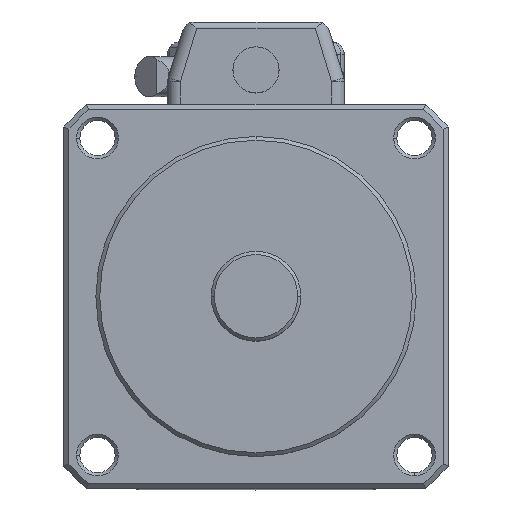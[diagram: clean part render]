
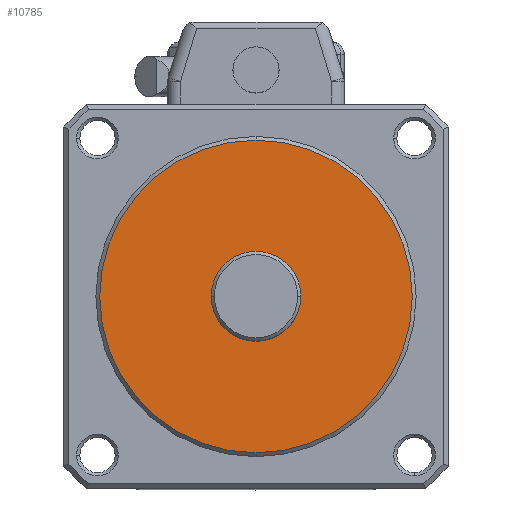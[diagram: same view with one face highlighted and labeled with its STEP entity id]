
A CAD part, top view. The second image highlights one B-rep face of the part: STEP entity #10785.
In plain terms, the highlighted planar face has unit normal (0, 0, 1).
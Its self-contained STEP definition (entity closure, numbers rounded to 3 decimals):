
#2837 = VERTEX_POINT ( 'NONE', #4909 ) ;
#2842 = VERTEX_POINT ( 'NONE', #4914 ) ;
#2854 = VERTEX_POINT ( 'NONE', #4926 ) ;
#2855 = VERTEX_POINT ( 'NONE', #4927 ) ;
#3740 = CARTESIAN_POINT ( 'NONE',  ( -88.766, -16.748, 86.492 ) ) ;
#3741 = DIRECTION ( 'NONE',  ( 0., 0., -1. ) ) ;
#3742 = DIRECTION ( 'NONE',  ( 0., 1., 0. ) ) ;
#3821 = CARTESIAN_POINT ( 'NONE',  ( -88.766, -16.748, 86.492 ) ) ;
#3822 = DIRECTION ( 'NONE',  ( 0., 0., -1. ) ) ;
#3823 = DIRECTION ( 'NONE',  ( 1., 0., 0. ) ) ;
#4909 = CARTESIAN_POINT ( 'NONE',  ( -81.766, -16.748, 86.492 ) ) ;
#4914 = CARTESIAN_POINT ( 'NONE',  ( -95.766, -16.748, 86.492 ) ) ;
#4926 = CARTESIAN_POINT ( 'NONE',  ( -88.766, -41.148, 86.492 ) ) ;
#4927 = CARTESIAN_POINT ( 'NONE',  ( -88.766, 7.652, 86.492 ) ) ;
#9785 = CIRCLE ( 'NONE', #20206, 24.4 ) ;
#9836 = CIRCLE ( 'NONE', #20221, 7. ) ;
#10000 = CIRCLE ( 'NONE', #20250, 7. ) ;
#10013 = CIRCLE ( 'NONE', #20263, 24.4 ) ;
#10053 = EDGE_CURVE ( 'NONE', #2855, #2854, #9785, .T. ) ;
#10086 = EDGE_CURVE ( 'NONE', #2842, #2837, #9836, .T. ) ;
#10183 = EDGE_CURVE ( 'NONE', #2837, #2842, #10000, .T. ) ;
#10196 = EDGE_CURVE ( 'NONE', #2854, #2855, #10013, .T. ) ;
#10785 = ADVANCED_FACE ( 'NONE', ( #14528, #14529 ), #19532, .T. ) ;
#12825 = CARTESIAN_POINT ( 'NONE',  ( -88.766, -16.748, 86.492 ) ) ;
#12826 = DIRECTION ( 'NONE',  ( 0., 0., -1. ) ) ;
#12827 = DIRECTION ( 'NONE',  ( 1., 0., 0. ) ) ;
#12864 = CARTESIAN_POINT ( 'NONE',  ( -88.766, -16.748, 86.492 ) ) ;
#12865 = DIRECTION ( 'NONE',  ( 0., 0., -1. ) ) ;
#12866 = DIRECTION ( 'NONE',  ( 0., 1., 0. ) ) ;
#13506 = ORIENTED_EDGE ( 'NONE', *, *, #10183, .T. ) ;
#13507 = ORIENTED_EDGE ( 'NONE', *, *, #10086, .T. ) ;
#13508 = ORIENTED_EDGE ( 'NONE', *, *, #10053, .F. ) ;
#13509 = ORIENTED_EDGE ( 'NONE', *, *, #10196, .F. ) ;
#14528 = FACE_BOUND ( 'NONE', #14927, .T. ) ;
#14529 = FACE_OUTER_BOUND ( 'NONE', #14928, .T. ) ;
#14927 = EDGE_LOOP ( 'NONE', ( #13506, #13507 ) ) ;
#14928 = EDGE_LOOP ( 'NONE', ( #13508, #13509 ) ) ;
#17426 = AXIS2_PLACEMENT_3D ( 'NONE', #19533, #19534, #19535 ) ;
#19532 = PLANE ( 'NONE',  #17426 ) ;
#19533 = CARTESIAN_POINT ( 'NONE',  ( -114.387, -42.368, 86.492 ) ) ;
#19534 = DIRECTION ( 'NONE',  ( 0., 0., 1. ) ) ;
#19535 = DIRECTION ( 'NONE',  ( 1., 0., 0. ) ) ;
#20206 = AXIS2_PLACEMENT_3D ( 'NONE', #3740, #3741, #3742 ) ;
#20221 = AXIS2_PLACEMENT_3D ( 'NONE', #3821, #3822, #3823 ) ;
#20250 = AXIS2_PLACEMENT_3D ( 'NONE', #12825, #12826, #12827 ) ;
#20263 = AXIS2_PLACEMENT_3D ( 'NONE', #12864, #12865, #12866 ) ;
